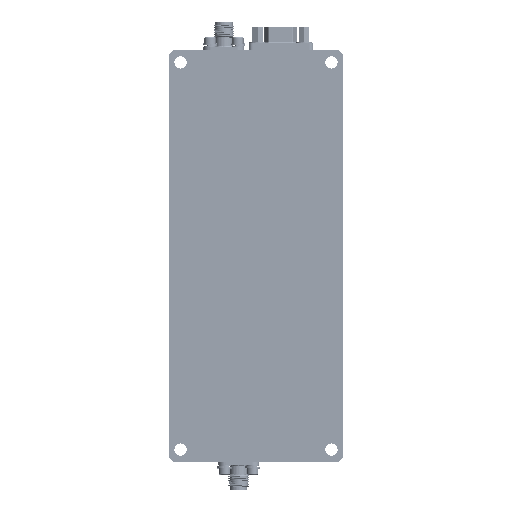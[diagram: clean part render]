
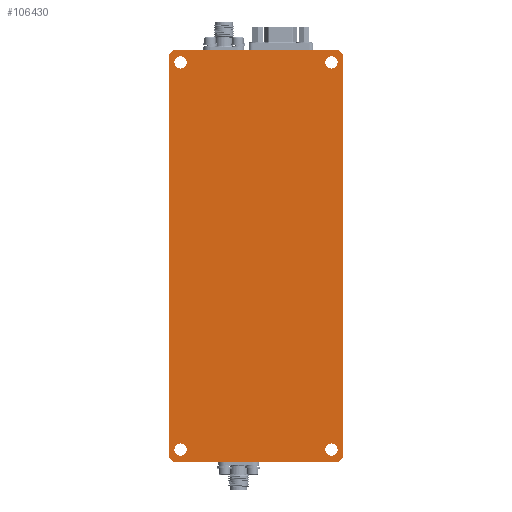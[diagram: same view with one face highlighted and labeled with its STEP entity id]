
A CAD part, front view. The second image highlights one B-rep face of the part: STEP entity #106430.
In plain terms, the highlighted planar face has unit normal (0, -1, 0).
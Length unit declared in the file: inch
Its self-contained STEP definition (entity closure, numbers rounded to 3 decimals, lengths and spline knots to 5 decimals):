
#1210 = CARTESIAN_POINT ( 'NONE',  ( 0.23563, 0., 3.36744 ) ) ;
#3281 = ORIENTED_EDGE ( 'NONE', *, *, #16032, .T. ) ;
#6218 = EDGE_CURVE ( 'NONE', #95279, #127181, #156586, .T. ) ;
#7005 = CARTESIAN_POINT ( 'NONE',  ( -1.59937, 0., 3.29269 ) ) ;
#7374 = ORIENTED_EDGE ( 'NONE', *, *, #134757, .T. ) ;
#7547 = FACE_BOUND ( 'NONE', #63598, .T. ) ;
#8503 = CARTESIAN_POINT ( 'NONE',  ( -1.74437, 0., -1.48756 ) ) ;
#8586 = DIRECTION ( 'NONE',  ( 0., 1., 0. ) ) ;
#9477 = DIRECTION ( 'NONE',  ( 0., 0., 1. ) ) ;
#9737 = VERTEX_POINT ( 'NONE', #36477 ) ;
#15076 = VECTOR ( 'NONE', #140584, 39.37008 ) ;
#15965 = VERTEX_POINT ( 'NONE', #103689 ) ;
#16032 = EDGE_CURVE ( 'NONE', #73588, #62901, #16069, .T. ) ;
#16069 = CIRCLE ( 'NONE', #39644, 0.07475 ) ;
#20727 = ORIENTED_EDGE ( 'NONE', *, *, #25195, .F. ) ;
#20988 = VECTOR ( 'NONE', #85660, 39.37008 ) ;
#21732 = LINE ( 'NONE', #121657, #126112 ) ;
#25195 = EDGE_CURVE ( 'NONE', #134066, #34325, #57136, .T. ) ;
#27775 = AXIS2_PLACEMENT_3D ( 'NONE', #50765, #90825, #49959 ) ;
#27990 = CARTESIAN_POINT ( 'NONE',  ( 0.23563, 0., -1.41731 ) ) ;
#29274 = CIRCLE ( 'NONE', #120799, 0.07475 ) ;
#31783 = AXIS2_PLACEMENT_3D ( 'NONE', #60584, #84316, #46715 ) ;
#32900 = EDGE_LOOP ( 'NONE', ( #55257, #127923 ) ) ;
#33096 = CIRCLE ( 'NONE', #27775, 0.07475 ) ;
#33780 = DIRECTION ( 'NONE',  ( 0., 1., 0. ) ) ;
#34325 = VERTEX_POINT ( 'NONE', #133771 ) ;
#34881 = DIRECTION ( 'NONE',  ( 0., 0., -1. ) ) ;
#35255 = CIRCLE ( 'NONE', #129479, 0.07475 ) ;
#36237 = EDGE_CURVE ( 'NONE', #15965, #53627, #83831, .T. ) ;
#36344 = AXIS2_PLACEMENT_3D ( 'NONE', #145058, #33780, #95941 ) ;
#36477 = CARTESIAN_POINT ( 'NONE',  ( 0.33063, 0., 3.51244 ) ) ;
#37350 = CARTESIAN_POINT ( 'NONE',  ( -1.74437, 0., -1.43756 ) ) ;
#37760 = CIRCLE ( 'NONE', #97768, 0.07475 ) ;
#37951 = DIRECTION ( 'NONE',  ( -0.707, 0., 0.707 ) ) ;
#39265 = VERTEX_POINT ( 'NONE', #133012 ) ;
#39644 = AXIS2_PLACEMENT_3D ( 'NONE', #131438, #8586, #132224 ) ;
#40207 = CARTESIAN_POINT ( 'NONE',  ( 0.38063, 0., -1.43756 ) ) ;
#42002 = VERTEX_POINT ( 'NONE', #78495 ) ;
#43680 = DIRECTION ( 'NONE',  ( 0., 0., 1. ) ) ;
#45200 = EDGE_CURVE ( 'NONE', #42002, #159340, #86451, .T. ) ;
#46715 = DIRECTION ( 'NONE',  ( 0., 0., 1. ) ) ;
#49128 = EDGE_CURVE ( 'NONE', #39265, #159988, #37760, .T. ) ;
#49409 = CARTESIAN_POINT ( 'NONE',  ( 0.38063, 0., 3.46244 ) ) ;
#49603 = CARTESIAN_POINT ( 'NONE',  ( -1.59937, 0., 3.36744 ) ) ;
#49959 = DIRECTION ( 'NONE',  ( 0., 0., 1. ) ) ;
#50765 = CARTESIAN_POINT ( 'NONE',  ( 0.23563, 0., -1.34256 ) ) ;
#53627 = VERTEX_POINT ( 'NONE', #97861 ) ;
#55257 = ORIENTED_EDGE ( 'NONE', *, *, #79887, .T. ) ;
#57136 = LINE ( 'NONE', #69420, #99087 ) ;
#59250 = ORIENTED_EDGE ( 'NONE', *, *, #127869, .T. ) ;
#60328 = LINE ( 'NONE', #109427, #20988 ) ;
#60584 = CARTESIAN_POINT ( 'NONE',  ( -1.59937, 0., -1.34256 ) ) ;
#61658 = ORIENTED_EDGE ( 'NONE', *, *, #118417, .T. ) ;
#61961 = EDGE_CURVE ( 'NONE', #134066, #53627, #124953, .T. ) ;
#62901 = VERTEX_POINT ( 'NONE', #114231 ) ;
#63598 = EDGE_LOOP ( 'NONE', ( #72206, #7374 ) ) ;
#66598 = CARTESIAN_POINT ( 'NONE',  ( 0.38063, 0., 3.46244 ) ) ;
#69400 = CARTESIAN_POINT ( 'NONE',  ( -1.59937, 0., -1.34256 ) ) ;
#69420 = CARTESIAN_POINT ( 'NONE',  ( -1.74437, 0., -1.48756 ) ) ;
#70020 = VECTOR ( 'NONE', #161771, 39.37008 ) ;
#70847 = CARTESIAN_POINT ( 'NONE',  ( -1.69437, 0., 3.51244 ) ) ;
#70852 = ORIENTED_EDGE ( 'NONE', *, *, #61961, .T. ) ;
#72206 = ORIENTED_EDGE ( 'NONE', *, *, #45200, .T. ) ;
#73588 = VERTEX_POINT ( 'NONE', #27990 ) ;
#73740 = CARTESIAN_POINT ( 'NONE',  ( -1.59937, 0., -1.26781 ) ) ;
#75789 = DIRECTION ( 'NONE',  ( 0., 0., 1. ) ) ;
#75903 = VECTOR ( 'NONE', #118897, 39.37008 ) ;
#76414 = ORIENTED_EDGE ( 'NONE', *, *, #116986, .T. ) ;
#78495 = CARTESIAN_POINT ( 'NONE',  ( 0.23563, 0., 3.44219 ) ) ;
#79121 = EDGE_CURVE ( 'NONE', #15965, #93044, #60328, .T. ) ;
#79887 = EDGE_CURVE ( 'NONE', #127181, #95279, #102407, .T. ) ;
#80634 = CARTESIAN_POINT ( 'NONE',  ( -1.74437, 0., -1.43756 ) ) ;
#82273 = ORIENTED_EDGE ( 'NONE', *, *, #151650, .F. ) ;
#82459 = DIRECTION ( 'NONE',  ( 0., 0., 1. ) ) ;
#83686 = FACE_BOUND ( 'NONE', #128084, .T. ) ;
#83831 = LINE ( 'NONE', #8503, #124796 ) ;
#84316 = DIRECTION ( 'NONE',  ( 0., 1., 0. ) ) ;
#85130 = CARTESIAN_POINT ( 'NONE',  ( 0.23563, 0., 3.29269 ) ) ;
#85441 = DIRECTION ( 'NONE',  ( -1., 0., 0. ) ) ;
#85660 = DIRECTION ( 'NONE',  ( 0.707, 0., 0.707 ) ) ;
#85981 = AXIS2_PLACEMENT_3D ( 'NONE', #69400, #93115, #143045 ) ;
#86451 = CIRCLE ( 'NONE', #133546, 0.07475 ) ;
#88237 = EDGE_LOOP ( 'NONE', ( #20727, #70852, #91544, #118792, #82273, #61658, #118631, #59250 ) ) ;
#88874 = EDGE_CURVE ( 'NONE', #159988, #39265, #35255, .T. ) ;
#90825 = DIRECTION ( 'NONE',  ( 0., 1., 0. ) ) ;
#91043 = VECTOR ( 'NONE', #37951, 39.37008 ) ;
#91544 = ORIENTED_EDGE ( 'NONE', *, *, #36237, .F. ) ;
#92763 = DIRECTION ( 'NONE',  ( 0., 1., 0. ) ) ;
#93044 = VERTEX_POINT ( 'NONE', #40207 ) ;
#93115 = DIRECTION ( 'NONE',  ( 0., 1., 0. ) ) ;
#94245 = VERTEX_POINT ( 'NONE', #70847 ) ;
#94357 = FACE_BOUND ( 'NONE', #159439, .T. ) ;
#95134 = FACE_OUTER_BOUND ( 'NONE', #88237, .T. ) ;
#95279 = VERTEX_POINT ( 'NONE', #156103 ) ;
#95941 = DIRECTION ( 'NONE',  ( 0., 0., 1. ) ) ;
#97768 = AXIS2_PLACEMENT_3D ( 'NONE', #140274, #92763, #43680 ) ;
#97861 = CARTESIAN_POINT ( 'NONE',  ( -1.69437, 0., -1.48756 ) ) ;
#99087 = VECTOR ( 'NONE', #82459, 39.37008 ) ;
#102407 = CIRCLE ( 'NONE', #31783, 0.07475 ) ;
#103689 = CARTESIAN_POINT ( 'NONE',  ( 0.33063, 0., -1.48756 ) ) ;
#106430 = ADVANCED_FACE ( 'NONE', ( #157371, #83686, #7547, #94357, #95134 ), #133596, .F. ) ;
#109427 = CARTESIAN_POINT ( 'NONE',  ( 0.33063, 0., -1.48756 ) ) ;
#112616 = DIRECTION ( 'NONE',  ( 0., 1., 0. ) ) ;
#114203 = DIRECTION ( 'NONE',  ( 0., 1., 0. ) ) ;
#114231 = CARTESIAN_POINT ( 'NONE',  ( 0.23563, 0., -1.26781 ) ) ;
#116869 = LINE ( 'NONE', #152850, #15076 ) ;
#116986 = EDGE_CURVE ( 'NONE', #62901, #73588, #33096, .T. ) ;
#118417 = EDGE_CURVE ( 'NONE', #151889, #9737, #150832, .T. ) ;
#118631 = ORIENTED_EDGE ( 'NONE', *, *, #123086, .F. ) ;
#118792 = ORIENTED_EDGE ( 'NONE', *, *, #79121, .T. ) ;
#118897 = DIRECTION ( 'NONE',  ( 1., 0., 0. ) ) ;
#120799 = AXIS2_PLACEMENT_3D ( 'NONE', #1210, #114203, #75789 ) ;
#121657 = CARTESIAN_POINT ( 'NONE',  ( 0.38063, 0., -1.48756 ) ) ;
#123086 = EDGE_CURVE ( 'NONE', #94245, #9737, #126569, .T. ) ;
#124796 = VECTOR ( 'NONE', #85441, 39.37008 ) ;
#124953 = LINE ( 'NONE', #37350, #70020 ) ;
#126112 = VECTOR ( 'NONE', #34881, 39.37008 ) ;
#126569 = LINE ( 'NONE', #138850, #75903 ) ;
#127181 = VERTEX_POINT ( 'NONE', #73740 ) ;
#127869 = EDGE_CURVE ( 'NONE', #94245, #34325, #116869, .T. ) ;
#127923 = ORIENTED_EDGE ( 'NONE', *, *, #6218, .T. ) ;
#128084 = EDGE_LOOP ( 'NONE', ( #76414, #3281 ) ) ;
#128556 = DIRECTION ( 'NONE',  ( 0., 0., 1. ) ) ;
#129479 = AXIS2_PLACEMENT_3D ( 'NONE', #49603, #112616, #9477 ) ;
#131438 = CARTESIAN_POINT ( 'NONE',  ( 0.23563, 0., -1.34256 ) ) ;
#132224 = DIRECTION ( 'NONE',  ( 0., 0., 1. ) ) ;
#133012 = CARTESIAN_POINT ( 'NONE',  ( -1.59937, 0., 3.44219 ) ) ;
#133546 = AXIS2_PLACEMENT_3D ( 'NONE', #153088, #153913, #128556 ) ;
#133596 = PLANE ( 'NONE',  #36344 ) ;
#133771 = CARTESIAN_POINT ( 'NONE',  ( -1.74437, 0., 3.46244 ) ) ;
#134066 = VERTEX_POINT ( 'NONE', #80634 ) ;
#134757 = EDGE_CURVE ( 'NONE', #159340, #42002, #29274, .T. ) ;
#138850 = CARTESIAN_POINT ( 'NONE',  ( -1.74437, 0., 3.51244 ) ) ;
#139798 = ORIENTED_EDGE ( 'NONE', *, *, #88874, .T. ) ;
#140274 = CARTESIAN_POINT ( 'NONE',  ( -1.59937, 0., 3.36744 ) ) ;
#140584 = DIRECTION ( 'NONE',  ( -0.707, 0., -0.707 ) ) ;
#143045 = DIRECTION ( 'NONE',  ( 0., 0., 1. ) ) ;
#145058 = CARTESIAN_POINT ( 'NONE',  ( 0., 0., 0. ) ) ;
#150832 = LINE ( 'NONE', #49409, #91043 ) ;
#151650 = EDGE_CURVE ( 'NONE', #151889, #93044, #21732, .T. ) ;
#151889 = VERTEX_POINT ( 'NONE', #66598 ) ;
#152850 = CARTESIAN_POINT ( 'NONE',  ( -1.69437, 0., 3.51244 ) ) ;
#153088 = CARTESIAN_POINT ( 'NONE',  ( 0.23563, 0., 3.36744 ) ) ;
#153913 = DIRECTION ( 'NONE',  ( 0., 1., 0. ) ) ;
#155775 = ORIENTED_EDGE ( 'NONE', *, *, #49128, .T. ) ;
#156103 = CARTESIAN_POINT ( 'NONE',  ( -1.59937, 0., -1.41731 ) ) ;
#156586 = CIRCLE ( 'NONE', #85981, 0.07475 ) ;
#157371 = FACE_BOUND ( 'NONE', #32900, .T. ) ;
#159340 = VERTEX_POINT ( 'NONE', #85130 ) ;
#159439 = EDGE_LOOP ( 'NONE', ( #155775, #139798 ) ) ;
#159988 = VERTEX_POINT ( 'NONE', #7005 ) ;
#161771 = DIRECTION ( 'NONE',  ( 0.707, 0., -0.707 ) ) ;
